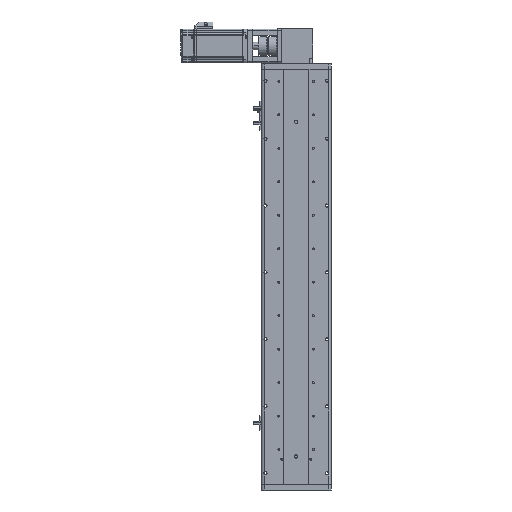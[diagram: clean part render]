
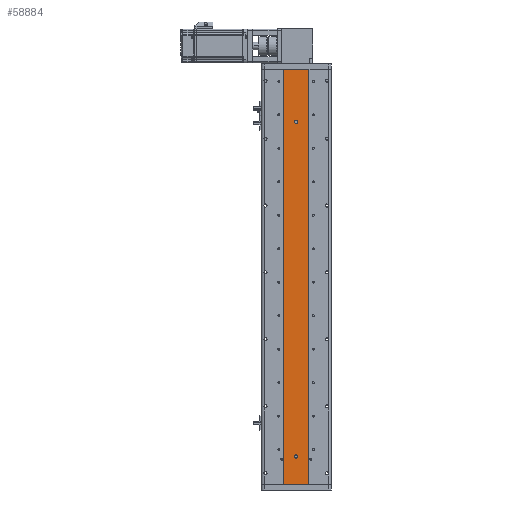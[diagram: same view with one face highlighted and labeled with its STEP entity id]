
A CAD part, front view. The second image highlights one B-rep face of the part: STEP entity #58884.
In plain terms, the highlighted planar face has unit normal (0, -1, 0).
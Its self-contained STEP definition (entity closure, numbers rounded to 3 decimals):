
#602 = CARTESIAN_POINT ( 'NONE',  ( -23., 1., 372.001 ) ) ;
#928 = VECTOR ( 'NONE', #29426, 1000. ) ;
#965 = ORIENTED_EDGE ( 'NONE', *, *, #38689, .T. ) ;
#2110 = CARTESIAN_POINT ( 'NONE',  ( 0., 1., 278. ) ) ;
#2276 = EDGE_CURVE ( 'NONE', #18020, #11635, #36098, .T. ) ;
#2324 = EDGE_LOOP ( 'NONE', ( #50816, #10471 ) ) ;
#2859 = CIRCLE ( 'NONE', #54788, 3. ) ;
#2947 = DIRECTION ( 'NONE',  ( 0., 0., 1. ) ) ;
#3186 = VECTOR ( 'NONE', #8668, 1000. ) ;
#3349 = FACE_BOUND ( 'NONE', #5853, .T. ) ;
#5853 = EDGE_LOOP ( 'NONE', ( #49511, #19516 ) ) ;
#6305 = AXIS2_PLACEMENT_3D ( 'NONE', #58765, #30759, #2947 ) ;
#6521 = CARTESIAN_POINT ( 'NONE',  ( 0., 1., 275. ) ) ;
#6771 = DIRECTION ( 'NONE',  ( 0., 0., -1. ) ) ;
#8668 = DIRECTION ( 'NONE',  ( 1., 0., 0. ) ) ;
#10044 = CIRCLE ( 'NONE', #50255, 3. ) ;
#10471 = ORIENTED_EDGE ( 'NONE', *, *, #2276, .F. ) ;
#11635 = VERTEX_POINT ( 'NONE', #28971 ) ;
#12513 = LINE ( 'NONE', #602, #35769 ) ;
#13737 = VERTEX_POINT ( 'NONE', #45261 ) ;
#14458 = DIRECTION ( 'NONE',  ( 0., -1., 0. ) ) ;
#16236 = ORIENTED_EDGE ( 'NONE', *, *, #52066, .T. ) ;
#17727 = CARTESIAN_POINT ( 'NONE',  ( 0., 1., -322. ) ) ;
#17851 = EDGE_CURVE ( 'NONE', #11635, #18020, #10044, .T. ) ;
#17858 = AXIS2_PLACEMENT_3D ( 'NONE', #2110, #34637, #6771 ) ;
#18020 = VERTEX_POINT ( 'NONE', #19225 ) ;
#18754 = VERTEX_POINT ( 'NONE', #43804 ) ;
#18796 = VERTEX_POINT ( 'NONE', #6521 ) ;
#19102 = ORIENTED_EDGE ( 'NONE', *, *, #52008, .F. ) ;
#19225 = CARTESIAN_POINT ( 'NONE',  ( 0., 1., -319. ) ) ;
#19516 = ORIENTED_EDGE ( 'NONE', *, *, #32412, .F. ) ;
#19894 = LINE ( 'NONE', #59837, #3186 ) ;
#21431 = PLANE ( 'NONE',  #6305 ) ;
#22409 = DIRECTION ( 'NONE',  ( 0., 0., -1. ) ) ;
#24882 = VECTOR ( 'NONE', #56261, 1000. ) ;
#25151 = DIRECTION ( 'NONE',  ( 0., -1., 0. ) ) ;
#25752 = CIRCLE ( 'NONE', #17858, 3. ) ;
#26314 = LINE ( 'NONE', #51575, #24882 ) ;
#26904 = ORIENTED_EDGE ( 'NONE', *, *, #50966, .F. ) ;
#27790 = VERTEX_POINT ( 'NONE', #56653 ) ;
#28072 = FACE_BOUND ( 'NONE', #2324, .T. ) ;
#28464 = DIRECTION ( 'NONE',  ( 0., 0., -1. ) ) ;
#28971 = CARTESIAN_POINT ( 'NONE',  ( 0., 1., -325. ) ) ;
#29426 = DIRECTION ( 'NONE',  ( 1., 0., 0. ) ) ;
#30759 = DIRECTION ( 'NONE',  ( 0., 1., 0. ) ) ;
#32412 = EDGE_CURVE ( 'NONE', #27790, #18796, #25752, .T. ) ;
#34127 = CARTESIAN_POINT ( 'NONE',  ( 23., 1., -372. ) ) ;
#34637 = DIRECTION ( 'NONE',  ( 0., -1., 0. ) ) ;
#35769 = VECTOR ( 'NONE', #28464, 1000. ) ;
#35970 = CARTESIAN_POINT ( 'NONE',  ( 23., 1., -372. ) ) ;
#36098 = CIRCLE ( 'NONE', #46448, 3. ) ;
#36236 = VERTEX_POINT ( 'NONE', #55058 ) ;
#38040 = LINE ( 'NONE', #34127, #928 ) ;
#38689 = EDGE_CURVE ( 'NONE', #36236, #49820, #38040, .T. ) ;
#42302 = CARTESIAN_POINT ( 'NONE',  ( 0., 1., -322. ) ) ;
#43804 = CARTESIAN_POINT ( 'NONE',  ( -23., 1., 372. ) ) ;
#45261 = CARTESIAN_POINT ( 'NONE',  ( 23., 1., 372. ) ) ;
#46448 = AXIS2_PLACEMENT_3D ( 'NONE', #17727, #50419, #22409 ) ;
#47030 = DIRECTION ( 'NONE',  ( 0., 0., -1. ) ) ;
#48547 = EDGE_CURVE ( 'NONE', #18796, #27790, #2859, .T. ) ;
#49511 = ORIENTED_EDGE ( 'NONE', *, *, #48547, .F. ) ;
#49820 = VERTEX_POINT ( 'NONE', #35970 ) ;
#50255 = AXIS2_PLACEMENT_3D ( 'NONE', #42302, #14458, #47030 ) ;
#50419 = DIRECTION ( 'NONE',  ( 0., -1., 0. ) ) ;
#50816 = ORIENTED_EDGE ( 'NONE', *, *, #17851, .F. ) ;
#50966 = EDGE_CURVE ( 'NONE', #18754, #13737, #19894, .T. ) ;
#51575 = CARTESIAN_POINT ( 'NONE',  ( 23., 1., 372.001 ) ) ;
#52008 = EDGE_CURVE ( 'NONE', #13737, #49820, #26314, .T. ) ;
#52066 = EDGE_CURVE ( 'NONE', #18754, #36236, #12513, .T. ) ;
#52920 = FACE_OUTER_BOUND ( 'NONE', #56172, .T. ) ;
#53089 = CARTESIAN_POINT ( 'NONE',  ( 0., 1., 278. ) ) ;
#54788 = AXIS2_PLACEMENT_3D ( 'NONE', #53089, #25151, #57830 ) ;
#55058 = CARTESIAN_POINT ( 'NONE',  ( -23., 1., -372. ) ) ;
#56172 = EDGE_LOOP ( 'NONE', ( #16236, #965, #19102, #26904 ) ) ;
#56261 = DIRECTION ( 'NONE',  ( 0., 0., -1. ) ) ;
#56653 = CARTESIAN_POINT ( 'NONE',  ( 0., 1., 281. ) ) ;
#57830 = DIRECTION ( 'NONE',  ( 0., 0., -1. ) ) ;
#58765 = CARTESIAN_POINT ( 'NONE',  ( 23., 1., 372.001 ) ) ;
#58884 = ADVANCED_FACE ( 'NONE', ( #3349, #28072, #52920 ), #21431, .F. ) ;
#59837 = CARTESIAN_POINT ( 'NONE',  ( 23., 1., 372. ) ) ;
